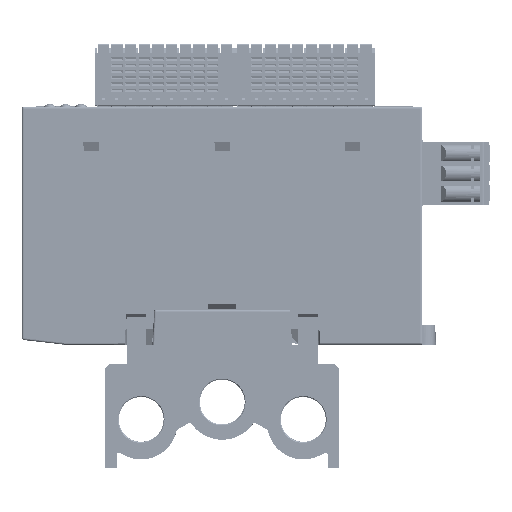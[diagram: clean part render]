
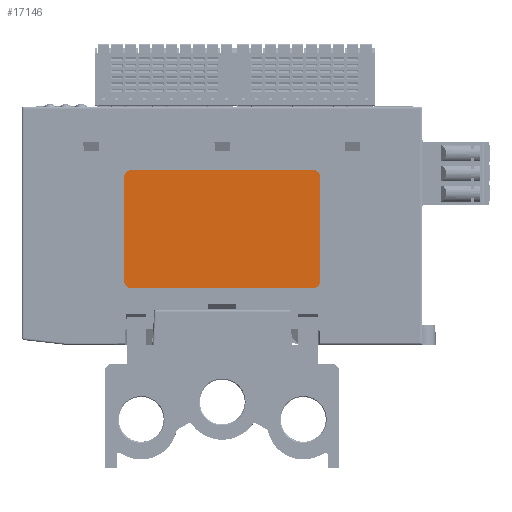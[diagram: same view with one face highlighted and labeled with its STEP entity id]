
A CAD part, front view. The second image highlights one B-rep face of the part: STEP entity #17146.
In plain terms, the highlighted planar face has unit normal (0, -1, 0).
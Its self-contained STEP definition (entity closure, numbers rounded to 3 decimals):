
#7600=FACE_OUTER_BOUND('',#72479,.T.);
#17146=ADVANCED_FACE('',(#7600),#26862,.F.);
#26862=PLANE('',#183643);
#34628=LINE('',#256308,#52836);
#34632=LINE('',#256316,#52840);
#34634=LINE('',#256320,#52842);
#34637=LINE('',#256328,#52845);
#52836=VECTOR('',#201706,1.);
#52840=VECTOR('',#201712,1.);
#52842=VECTOR('',#201716,1.);
#52845=VECTOR('',#201723,1.);
#72479=EDGE_LOOP('',(#86406,#86407,#86408,#86409,#86410,#86411,#86412,#86413));
#86406=ORIENTED_EDGE('',*,*,#154191,.F.);
#86407=ORIENTED_EDGE('',*,*,#154196,.T.);
#86408=ORIENTED_EDGE('',*,*,#154197,.F.);
#86409=ORIENTED_EDGE('',*,*,#154198,.T.);
#86410=ORIENTED_EDGE('',*,*,#154193,.F.);
#86411=ORIENTED_EDGE('',*,*,#154199,.T.);
#86412=ORIENTED_EDGE('',*,*,#154187,.F.);
#86413=ORIENTED_EDGE('',*,*,#154200,.T.);
#136666=VERTEX_POINT('',#256309);
#136667=VERTEX_POINT('',#256310);
#136668=VERTEX_POINT('',#256315);
#136669=VERTEX_POINT('',#256317);
#136670=VERTEX_POINT('',#256321);
#136671=VERTEX_POINT('',#256322);
#136672=VERTEX_POINT('',#256327);
#136673=VERTEX_POINT('',#256329);
#154187=EDGE_CURVE('',#136666,#136667,#34628,.T.);
#154191=EDGE_CURVE('',#136668,#136669,#34632,.T.);
#154193=EDGE_CURVE('',#136670,#136671,#34634,.T.);
#154196=EDGE_CURVE('',#136668,#136672,#178123,.T.);
#154197=EDGE_CURVE('',#136673,#136672,#34637,.T.);
#154198=EDGE_CURVE('',#136673,#136671,#178124,.T.);
#154199=EDGE_CURVE('',#136670,#136667,#178125,.T.);
#154200=EDGE_CURVE('',#136666,#136669,#178126,.T.);
#178123=CIRCLE('',#183639,1.8);
#178124=CIRCLE('',#183640,1.8);
#178125=CIRCLE('',#183641,1.8);
#178126=CIRCLE('',#183642,1.8);
#183639=AXIS2_PLACEMENT_3D('',#256326,#201721,#201722);
#183640=AXIS2_PLACEMENT_3D('',#256330,#201724,#201725);
#183641=AXIS2_PLACEMENT_3D('',#256331,#201726,#201727);
#183642=AXIS2_PLACEMENT_3D('',#256332,#201728,#201729);
#183643=AXIS2_PLACEMENT_3D('',#256333,#201730,#201731);
#201706=DIRECTION('',(0.,0.,-1.));
#201712=DIRECTION('',(1.,0.,0.));
#201716=DIRECTION('',(-1.,0.,0.));
#201721=DIRECTION('',(0.,-1.,0.));
#201722=DIRECTION('',(0.,0.,1.));
#201723=DIRECTION('',(0.,0.,1.));
#201724=DIRECTION('',(0.,-1.,0.));
#201725=DIRECTION('',(0.,0.,-1.));
#201726=DIRECTION('',(0.,-1.,0.));
#201727=DIRECTION('',(0.,0.,-1.));
#201728=DIRECTION('',(0.,-1.,0.));
#201729=DIRECTION('',(0.,0.,-1.));
#201730=DIRECTION('',(0.,1.,0.));
#201731=DIRECTION('',(0.,0.,-1.));
#256308=CARTESIAN_POINT('',(525.15,997.36,34.634));
#256309=CARTESIAN_POINT('',(525.15,997.36,47.934));
#256310=CARTESIAN_POINT('',(525.15,997.36,21.334));
#256315=CARTESIAN_POINT('',(476.75,997.36,49.734));
#256316=CARTESIAN_POINT('',(500.05,997.36,49.734));
#256317=CARTESIAN_POINT('',(523.35,997.36,49.734));
#256320=CARTESIAN_POINT('',(475.05,997.36,19.534));
#256321=CARTESIAN_POINT('',(523.35,997.36,19.534));
#256322=CARTESIAN_POINT('',(476.75,997.36,19.534));
#256326=CARTESIAN_POINT('',(476.75,997.36,47.934));
#256327=CARTESIAN_POINT('',(474.95,997.36,47.934));
#256328=CARTESIAN_POINT('',(474.95,997.36,34.634));
#256329=CARTESIAN_POINT('',(474.95,997.36,21.334));
#256330=CARTESIAN_POINT('',(476.75,997.36,21.334));
#256331=CARTESIAN_POINT('',(523.35,997.36,21.334));
#256332=CARTESIAN_POINT('',(523.35,997.36,47.934));
#256333=CARTESIAN_POINT('',(500.041,997.36,23.341));
